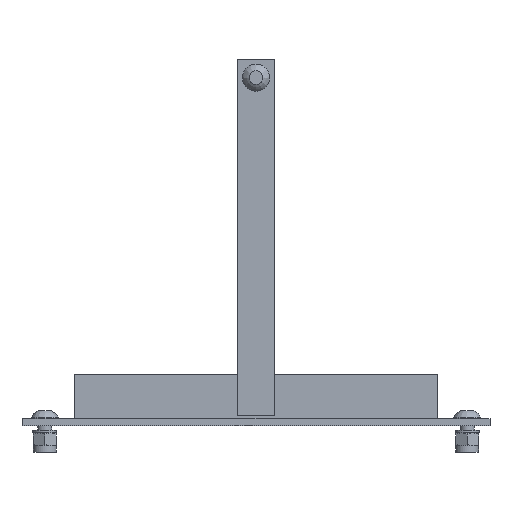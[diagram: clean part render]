
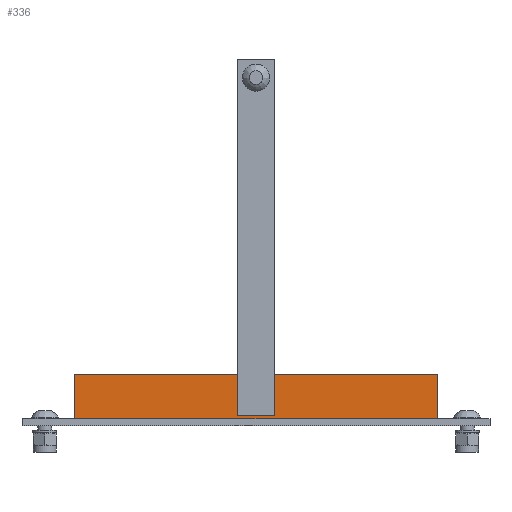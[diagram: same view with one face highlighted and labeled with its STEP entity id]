
A CAD part, front view. The second image highlights one B-rep face of the part: STEP entity #336.
In plain terms, the highlighted planar face has unit normal (0, -1, 0).
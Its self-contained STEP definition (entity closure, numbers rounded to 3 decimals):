
#336 = ADVANCED_FACE( '', ( #722 ), #723, .F. );
#722 = FACE_OUTER_BOUND( '', #1244, .T. );
#723 = PLANE( '', #1245 );
#1244 = EDGE_LOOP( '', ( #1941, #1942, #1943, #1944 ) );
#1245 = AXIS2_PLACEMENT_3D( '', #1945, #1946, #1947 );
#1941 = ORIENTED_EDGE( '', *, *, #2654, .T. );
#1942 = ORIENTED_EDGE( '', *, *, #2655, .F. );
#1943 = ORIENTED_EDGE( '', *, *, #2547, .F. );
#1944 = ORIENTED_EDGE( '', *, *, #2656, .T. );
#1945 = CARTESIAN_POINT( '', ( 63.5, 8.5, 18. ) );
#1946 = DIRECTION( '', ( 0., 1., 0. ) );
#1947 = DIRECTION( '', ( 0., 0., 1. ) );
#2547 = EDGE_CURVE( '', #2939, #2941, #2942, .T. );
#2654 = EDGE_CURVE( '', #3108, #3109, #3110, .T. );
#2655 = EDGE_CURVE( '', #2941, #3109, #3111, .T. );
#2656 = EDGE_CURVE( '', #2939, #3108, #3112, .T. );
#2939 = VERTEX_POINT( '', #3474 );
#2941 = VERTEX_POINT( '', #3477 );
#2942 = LINE( '', #3478, #3479 );
#3108 = VERTEX_POINT( '', #3756 );
#3109 = VERTEX_POINT( '', #3757 );
#3110 = LINE( '', #3758, #3759 );
#3111 = LINE( '', #3760, #3761 );
#3112 = LINE( '', #3762, #3763 );
#3474 = CARTESIAN_POINT( '', ( 63.5, 8.5, 18. ) );
#3477 = CARTESIAN_POINT( '', ( 63.5, 8.5, 2.5 ) );
#3478 = CARTESIAN_POINT( '', ( 63.5, 8.5, 18. ) );
#3479 = VECTOR( '', #4182, 1000. );
#3756 = CARTESIAN_POINT( '', ( -63.5, 8.5, 18. ) );
#3757 = CARTESIAN_POINT( '', ( -63.5, 8.5, 2.5 ) );
#3758 = CARTESIAN_POINT( '', ( -63.5, 8.5, 18. ) );
#3759 = VECTOR( '', #4299, 1000. );
#3760 = CARTESIAN_POINT( '', ( 63.5, 8.5, 2.5 ) );
#3761 = VECTOR( '', #4300, 1000. );
#3762 = CARTESIAN_POINT( '', ( 63.5, 8.5, 18. ) );
#3763 = VECTOR( '', #4301, 1000. );
#4182 = DIRECTION( '', ( 0., 0., -1. ) );
#4299 = DIRECTION( '', ( 0., 0., -1. ) );
#4300 = DIRECTION( '', ( -1., 0., 0. ) );
#4301 = DIRECTION( '', ( -1., 0., 0. ) );
